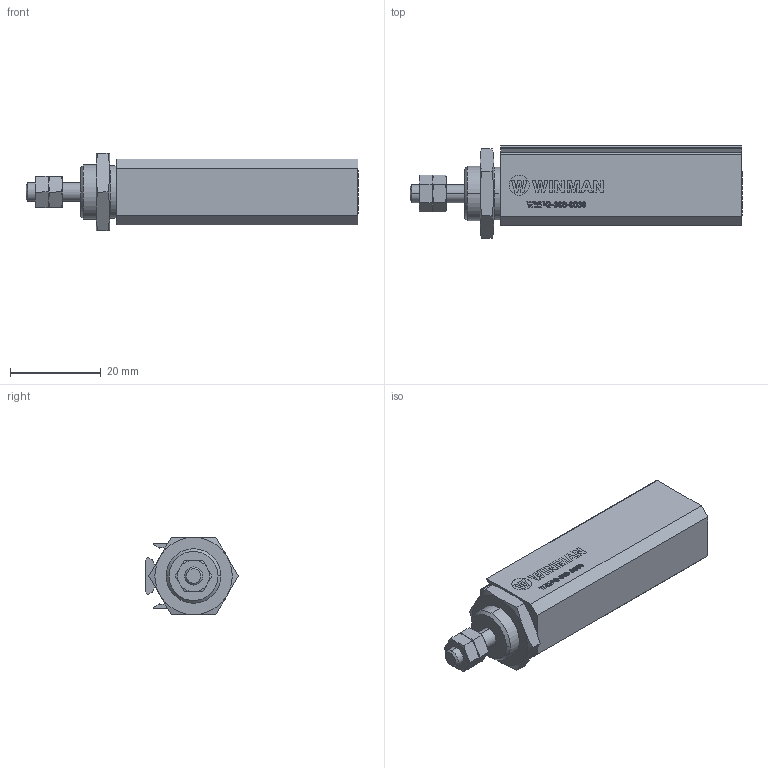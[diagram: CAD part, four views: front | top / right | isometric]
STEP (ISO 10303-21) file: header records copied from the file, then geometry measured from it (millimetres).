
FILE_DESCRIPTION (( 'STEP AP214' ), '1' );
FILE_NAME ('WMPG-008-0030 (3D).STEP', '2020-11-25T06:34:48', ( '' ), ( '' ), 'SwSTEP 2.0', 'SolidWorks 2016', '' );
FILE_SCHEMA (( 'AUTOMOTIVE_DESIGN' ));
Length unit declared in the file: millimetre
Products named in the file (5): WMPG-008-0030-nut2; WMPG-008-0030-R; WMPG-008-0030-nut1; WMPG-008-0030 (3D); WMPG-008-0030-B
Assembly tree (5 placements, depth 2):
  WMPG-008-0030 (3D)
    WMPG-008-0030-B
    WMPG-008-0030-R
    WMPG-008-0030-nut2  x2
    WMPG-008-0030-nut1
Bounding box: 73 x 20.32 x 17 mm (x, y, z)
Volume: 11504.9 mm3; surface area: 7926.9 mm2
Topology: 5 solids, 5 shells, 408 faces, 1018 edges, 658 vertices
Faces by surface type: plane 207, bspline 95, cone 62, cylinder 44
Entity records: 19452 total; most frequent: CARTESIAN_POINT 7955, ORIENTED_EDGE 1924, DIRECTION 1450, EDGE_CURVE 962, VERTEX_POINT 626, LINE 592, VECTOR 592, AXIS2_PLACEMENT_3D 429
